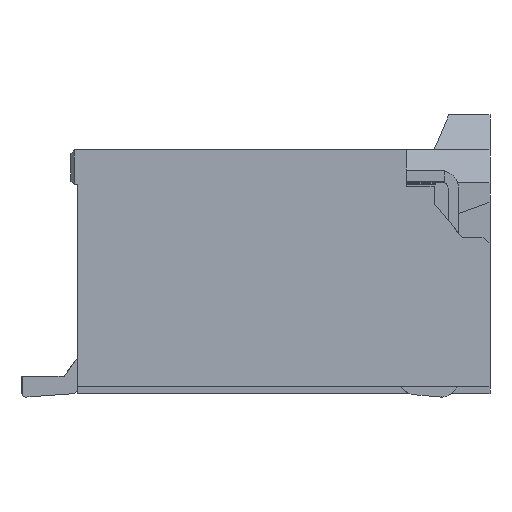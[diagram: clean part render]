
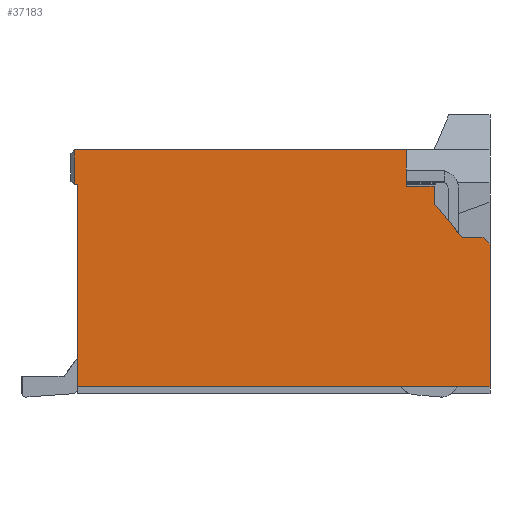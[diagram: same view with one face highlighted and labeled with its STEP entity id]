
A CAD part, front view. The second image highlights one B-rep face of the part: STEP entity #37183.
In plain terms, the highlighted planar face has unit normal (0, -1, 0).
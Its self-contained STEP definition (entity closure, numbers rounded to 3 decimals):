
#471 = CARTESIAN_POINT ( 'NONE',  ( -2.575, -22.7, 3.04 ) ) ;
#475 = EDGE_CURVE ( 'NONE', #38952, #31917, #37113, .T. ) ;
#585 = CARTESIAN_POINT ( 'NONE',  ( -2.55, -22.7, 3.04 ) ) ;
#805 = ORIENTED_EDGE ( 'NONE', *, *, #3189, .F. ) ;
#1796 = EDGE_CURVE ( 'NONE', #22122, #19518, #39102, .T. ) ;
#2029 = LINE ( 'NONE', #40895, #21540 ) ;
#2256 = EDGE_CURVE ( 'NONE', #33288, #10694, #29593, .T. ) ;
#3136 = CARTESIAN_POINT ( 'NONE',  ( 2.95, -22.7, 2.29 ) ) ;
#3189 = EDGE_CURVE ( 'NONE', #20040, #12581, #21895, .T. ) ;
#3582 = CARTESIAN_POINT ( 'NONE',  ( 0., -22.7, 0. ) ) ;
#4187 = ORIENTED_EDGE ( 'NONE', *, *, #39959, .T. ) ;
#5637 = CARTESIAN_POINT ( 'NONE',  ( 2.15, -22.7, 0. ) ) ;
#6902 = FACE_OUTER_BOUND ( 'NONE', #9868, .T. ) ;
#8085 = CARTESIAN_POINT ( 'NONE',  ( 3.35, -22.7, 0.15 ) ) ;
#9693 = EDGE_CURVE ( 'NONE', #22399, #10694, #22301, .T. ) ;
#9836 = DIRECTION ( 'NONE',  ( 0., 0., 1. ) ) ;
#9868 = EDGE_LOOP ( 'NONE', ( #24107, #17478, #34907, #21939, #29883, #27619, #34684, #28894, #14181, #4187, #805, #16725 ) ) ;
#10694 = VERTEX_POINT ( 'NONE', #585 ) ;
#11133 = EDGE_CURVE ( 'NONE', #22196, #31917, #24417, .T. ) ;
#11284 = LINE ( 'NONE', #30849, #12481 ) ;
#11595 = CARTESIAN_POINT ( 'NONE',  ( -0.225, -22.7, 3.54 ) ) ;
#11853 = CARTESIAN_POINT ( 'NONE',  ( 3.35, -22.7, 1.17 ) ) ;
#11938 = CARTESIAN_POINT ( 'NONE',  ( 2.15, -22.7, 3.02 ) ) ;
#12297 = VECTOR ( 'NONE', #15514, 1000. ) ;
#12388 = VECTOR ( 'NONE', #37416, 1000. ) ;
#12481 = VECTOR ( 'NONE', #27490, 1000. ) ;
#12581 = VERTEX_POINT ( 'NONE', #36623 ) ;
#12930 = VECTOR ( 'NONE', #38984, 1000. ) ;
#14181 = ORIENTED_EDGE ( 'NONE', *, *, #475, .F. ) ;
#15514 = DIRECTION ( 'NONE',  ( -0.64, 0., 0.768 ) ) ;
#15674 = AXIS2_PLACEMENT_3D ( 'NONE', #3582, #22708, #39300 ) ;
#16725 = ORIENTED_EDGE ( 'NONE', *, *, #41393, .T. ) ;
#17327 = VECTOR ( 'NONE', #32599, 1000. ) ;
#17478 = ORIENTED_EDGE ( 'NONE', *, *, #2256, .F. ) ;
#17771 = DIRECTION ( 'NONE',  ( 1., 0., 0. ) ) ;
#18031 = VECTOR ( 'NONE', #28395, 1000. ) ;
#18504 = DIRECTION ( 'NONE',  ( 0., 0., 1. ) ) ;
#18764 = CARTESIAN_POINT ( 'NONE',  ( 2.55, -22.7, 3.02 ) ) ;
#18904 = CARTESIAN_POINT ( 'NONE',  ( -2.6, -22.7, 3.54 ) ) ;
#19434 = LINE ( 'NONE', #26370, #12930 ) ;
#19518 = VERTEX_POINT ( 'NONE', #37741 ) ;
#20040 = VERTEX_POINT ( 'NONE', #18904 ) ;
#21230 = VECTOR ( 'NONE', #18504, 1000. ) ;
#21287 = VECTOR ( 'NONE', #17771, 1000. ) ;
#21340 = DIRECTION ( 'NONE',  ( -1., 0., 0. ) ) ;
#21540 = VECTOR ( 'NONE', #21340, 1000. ) ;
#21895 = LINE ( 'NONE', #11595, #18031 ) ;
#21939 = ORIENTED_EDGE ( 'NONE', *, *, #27016, .T. ) ;
#22058 = VECTOR ( 'NONE', #9836, 1000. ) ;
#22122 = VERTEX_POINT ( 'NONE', #24086 ) ;
#22196 = VERTEX_POINT ( 'NONE', #24292 ) ;
#22301 = LINE ( 'NONE', #471, #27957 ) ;
#22399 = VERTEX_POINT ( 'NONE', #32452 ) ;
#22708 = DIRECTION ( 'NONE',  ( 0., 1., 0. ) ) ;
#24086 = CARTESIAN_POINT ( 'NONE',  ( 3.35, -22.7, 2.19 ) ) ;
#24107 = ORIENTED_EDGE ( 'NONE', *, *, #9693, .T. ) ;
#24291 = LINE ( 'NONE', #11853, #27463 ) ;
#24292 = CARTESIAN_POINT ( 'NONE',  ( 2.55, -22.7, 2.77 ) ) ;
#24417 = LINE ( 'NONE', #25023, #21230 ) ;
#25023 = CARTESIAN_POINT ( 'NONE',  ( 2.55, -22.7, 2.895 ) ) ;
#26078 = PLANE ( 'NONE',  #15674 ) ;
#26370 = CARTESIAN_POINT ( 'NONE',  ( 3.1, -22.7, 2.29 ) ) ;
#26385 = VERTEX_POINT ( 'NONE', #3136 ) ;
#26818 = CARTESIAN_POINT ( 'NONE',  ( 2.35, -22.7, 3.02 ) ) ;
#27016 = EDGE_CURVE ( 'NONE', #31524, #22122, #24291, .T. ) ;
#27463 = VECTOR ( 'NONE', #40461, 1000. ) ;
#27490 = DIRECTION ( 'NONE',  ( 0., 0., -1. ) ) ;
#27619 = ORIENTED_EDGE ( 'NONE', *, *, #36434, .T. ) ;
#27957 = VECTOR ( 'NONE', #38922, 1000. ) ;
#28395 = DIRECTION ( 'NONE',  ( 1., 0., 0. ) ) ;
#28519 = EDGE_CURVE ( 'NONE', #31524, #33288, #2029, .T. ) ;
#28894 = ORIENTED_EDGE ( 'NONE', *, *, #11133, .T. ) ;
#28963 = CARTESIAN_POINT ( 'NONE',  ( -2.55, -22.7, 1.595 ) ) ;
#29593 = LINE ( 'NONE', #28963, #22058 ) ;
#29883 = ORIENTED_EDGE ( 'NONE', *, *, #1796, .T. ) ;
#30849 = CARTESIAN_POINT ( 'NONE',  ( -2.6, -22.7, 3.29 ) ) ;
#30933 = CARTESIAN_POINT ( 'NONE',  ( -2.55, -22.7, 0.15 ) ) ;
#31299 = CARTESIAN_POINT ( 'NONE',  ( 2.75, -22.7, 2.53 ) ) ;
#31524 = VERTEX_POINT ( 'NONE', #8085 ) ;
#31917 = VERTEX_POINT ( 'NONE', #18764 ) ;
#32452 = CARTESIAN_POINT ( 'NONE',  ( -2.6, -22.7, 3.04 ) ) ;
#32599 = DIRECTION ( 'NONE',  ( -0.707, 0., 0.707 ) ) ;
#33288 = VERTEX_POINT ( 'NONE', #30933 ) ;
#34674 = LINE ( 'NONE', #5637, #12388 ) ;
#34684 = ORIENTED_EDGE ( 'NONE', *, *, #38959, .T. ) ;
#34907 = ORIENTED_EDGE ( 'NONE', *, *, #28519, .F. ) ;
#36434 = EDGE_CURVE ( 'NONE', #19518, #26385, #19434, .T. ) ;
#36623 = CARTESIAN_POINT ( 'NONE',  ( 2.15, -22.7, 3.54 ) ) ;
#37113 = LINE ( 'NONE', #26818, #21287 ) ;
#37183 = ADVANCED_FACE ( 'NONE', ( #6902 ), #26078, .F. ) ;
#37416 = DIRECTION ( 'NONE',  ( 0., 0., 1. ) ) ;
#37741 = CARTESIAN_POINT ( 'NONE',  ( 3.25, -22.7, 2.29 ) ) ;
#38922 = DIRECTION ( 'NONE',  ( 1., 0., 0. ) ) ;
#38952 = VERTEX_POINT ( 'NONE', #11938 ) ;
#38959 = EDGE_CURVE ( 'NONE', #26385, #22196, #40552, .T. ) ;
#38984 = DIRECTION ( 'NONE',  ( -1., 0., 0. ) ) ;
#39102 = LINE ( 'NONE', #39518, #17327 ) ;
#39300 = DIRECTION ( 'NONE',  ( 0., 0., -1. ) ) ;
#39518 = CARTESIAN_POINT ( 'NONE',  ( 3.3, -22.7, 2.24 ) ) ;
#39959 = EDGE_CURVE ( 'NONE', #38952, #12581, #34674, .T. ) ;
#40461 = DIRECTION ( 'NONE',  ( 0., 0., 1. ) ) ;
#40552 = LINE ( 'NONE', #31299, #12297 ) ;
#40895 = CARTESIAN_POINT ( 'NONE',  ( 0.4, -22.7, 0.15 ) ) ;
#41393 = EDGE_CURVE ( 'NONE', #20040, #22399, #11284, .T. ) ;
